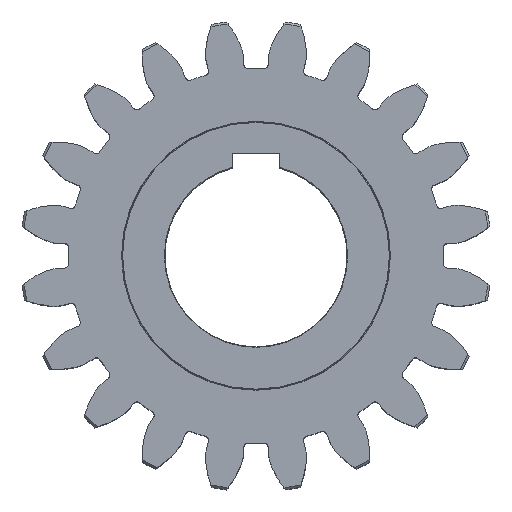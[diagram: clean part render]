
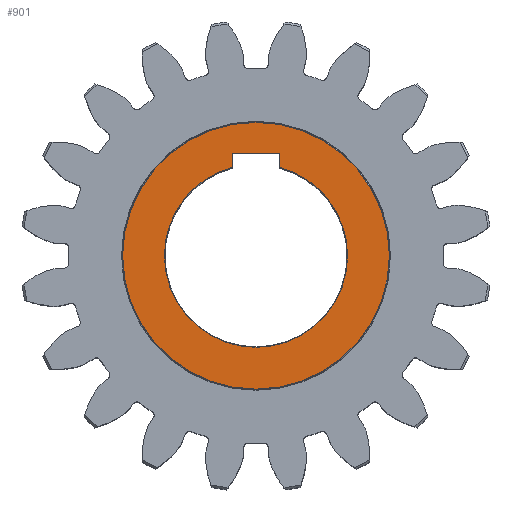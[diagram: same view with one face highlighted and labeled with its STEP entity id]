
A CAD part, top view. The second image highlights one B-rep face of the part: STEP entity #901.
In plain terms, the highlighted planar face has unit normal (0, 0, 1).
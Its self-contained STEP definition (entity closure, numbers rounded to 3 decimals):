
#135 = DIRECTION ( 'NONE',  ( 0., 0., -1. ) ) ;
#323 = AXIS2_PLACEMENT_3D ( 'NONE', #11144, #135, #11220 ) ;
#662 = DIRECTION ( 'NONE',  ( 0., 0., -1. ) ) ;
#901 = ADVANCED_FACE ( 'NONE', ( #3455, #8962 ), #10208, .T. ) ;
#932 = VERTEX_POINT ( 'NONE', #1185 ) ;
#1025 = DIRECTION ( 'NONE',  ( 0., 1., 0. ) ) ;
#1065 = DIRECTION ( 'NONE',  ( 1., 0., 0. ) ) ;
#1185 = CARTESIAN_POINT ( 'NONE',  ( 11., 47.9, 60. ) ) ;
#1200 = EDGE_CURVE ( 'NONE', #11713, #11671, #13451, .T. ) ;
#1491 = EDGE_CURVE ( 'NONE', #9310, #11546, #11482, .T. ) ;
#1533 = CIRCLE ( 'NONE', #12780, 62.25 ) ;
#2126 = CARTESIAN_POINT ( 'NONE',  ( 42.75, 0., 60. ) ) ;
#2259 = CARTESIAN_POINT ( 'NONE',  ( -11., 37.1, 60. ) ) ;
#2275 = DIRECTION ( 'NONE',  ( 0., 0., 1. ) ) ;
#2412 = DIRECTION ( 'NONE',  ( 1., 0., 0. ) ) ;
#2748 = CARTESIAN_POINT ( 'NONE',  ( 0., 0., 60. ) ) ;
#2942 = EDGE_CURVE ( 'NONE', #11546, #11713, #12963, .T. ) ;
#3398 = ORIENTED_EDGE ( 'NONE', *, *, #9932, .T. ) ;
#3455 = FACE_OUTER_BOUND ( 'NONE', #4498, .T. ) ;
#3597 = LINE ( 'NONE', #10140, #11673 ) ;
#3647 = DIRECTION ( 'NONE',  ( 1., 0., 0. ) ) ;
#4099 = CARTESIAN_POINT ( 'NONE',  ( -11., 41.311, 60. ) ) ;
#4135 = LINE ( 'NONE', #7805, #6475 ) ;
#4240 = CARTESIAN_POINT ( 'NONE',  ( 0., 0., 60. ) ) ;
#4498 = EDGE_LOOP ( 'NONE', ( #4998, #10718 ) ) ;
#4628 = LINE ( 'NONE', #2259, #11410 ) ;
#4998 = ORIENTED_EDGE ( 'NONE', *, *, #8187, .T. ) ;
#5548 = VERTEX_POINT ( 'NONE', #6033 ) ;
#5776 = ORIENTED_EDGE ( 'NONE', *, *, #1200, .T. ) ;
#6033 = CARTESIAN_POINT ( 'NONE',  ( -62.25, 0., 60. ) ) ;
#6475 = VECTOR ( 'NONE', #11104, 1000. ) ;
#6477 = DIRECTION ( 'NONE',  ( 1., 0., 0. ) ) ;
#6777 = DIRECTION ( 'NONE',  ( 1., 0., 0. ) ) ;
#6812 = AXIS2_PLACEMENT_3D ( 'NONE', #7503, #662, #6477 ) ;
#7406 = EDGE_CURVE ( 'NONE', #10600, #5548, #1533, .T. ) ;
#7503 = CARTESIAN_POINT ( 'NONE',  ( 0., 0., 60. ) ) ;
#7805 = CARTESIAN_POINT ( 'NONE',  ( 11., 37.1, 60. ) ) ;
#7979 = ORIENTED_EDGE ( 'NONE', *, *, #2942, .T. ) ;
#8162 = ORIENTED_EDGE ( 'NONE', *, *, #1491, .T. ) ;
#8186 = ORIENTED_EDGE ( 'NONE', *, *, #9568, .T. ) ;
#8187 = EDGE_CURVE ( 'NONE', #5548, #10600, #8344, .T. ) ;
#8344 = CIRCLE ( 'NONE', #9288, 62.25 ) ;
#8854 = DIRECTION ( 'NONE',  ( 1., 0., 0. ) ) ;
#8962 = FACE_BOUND ( 'NONE', #9963, .T. ) ;
#9034 = CARTESIAN_POINT ( 'NONE',  ( 0., 0., 60. ) ) ;
#9288 = AXIS2_PLACEMENT_3D ( 'NONE', #4240, #13191, #8854 ) ;
#9310 = VERTEX_POINT ( 'NONE', #11113 ) ;
#9568 = EDGE_CURVE ( 'NONE', #11671, #13694, #4628, .T. ) ;
#9932 = EDGE_CURVE ( 'NONE', #932, #9310, #4135, .T. ) ;
#9954 = CARTESIAN_POINT ( 'NONE',  ( 0., 0., 60. ) ) ;
#9963 = EDGE_LOOP ( 'NONE', ( #3398, #8162, #7979, #5776, #8186, #11407 ) ) ;
#10140 = CARTESIAN_POINT ( 'NONE',  ( 11., 47.9, 60. ) ) ;
#10208 = PLANE ( 'NONE',  #11106 ) ;
#10329 = CARTESIAN_POINT ( 'NONE',  ( -42.75, 0., 60. ) ) ;
#10545 = DIRECTION ( 'NONE',  ( 0., 0., -1. ) ) ;
#10600 = VERTEX_POINT ( 'NONE', #13684 ) ;
#10718 = ORIENTED_EDGE ( 'NONE', *, *, #7406, .T. ) ;
#10748 = CARTESIAN_POINT ( 'NONE',  ( -11., 47.9, 60. ) ) ;
#11104 = DIRECTION ( 'NONE',  ( 0., -1., 0. ) ) ;
#11106 = AXIS2_PLACEMENT_3D ( 'NONE', #9034, #2275, #6777 ) ;
#11113 = CARTESIAN_POINT ( 'NONE',  ( 11., 41.311, 60. ) ) ;
#11144 = CARTESIAN_POINT ( 'NONE',  ( 0., 0., 60. ) ) ;
#11220 = DIRECTION ( 'NONE',  ( 1., 0., 0. ) ) ;
#11407 = ORIENTED_EDGE ( 'NONE', *, *, #13396, .T. ) ;
#11410 = VECTOR ( 'NONE', #1025, 1000. ) ;
#11482 = CIRCLE ( 'NONE', #6812, 42.75 ) ;
#11546 = VERTEX_POINT ( 'NONE', #2126 ) ;
#11671 = VERTEX_POINT ( 'NONE', #4099 ) ;
#11673 = VECTOR ( 'NONE', #2412, 1000. ) ;
#11713 = VERTEX_POINT ( 'NONE', #10329 ) ;
#11790 = AXIS2_PLACEMENT_3D ( 'NONE', #2748, #10545, #3647 ) ;
#12780 = AXIS2_PLACEMENT_3D ( 'NONE', #9954, #14300, #1065 ) ;
#12963 = CIRCLE ( 'NONE', #11790, 42.75 ) ;
#13191 = DIRECTION ( 'NONE',  ( 0., 0., 1. ) ) ;
#13396 = EDGE_CURVE ( 'NONE', #13694, #932, #3597, .T. ) ;
#13451 = CIRCLE ( 'NONE', #323, 42.75 ) ;
#13684 = CARTESIAN_POINT ( 'NONE',  ( 62.25, 0., 60. ) ) ;
#13694 = VERTEX_POINT ( 'NONE', #10748 ) ;
#14300 = DIRECTION ( 'NONE',  ( 0., 0., 1. ) ) ;
